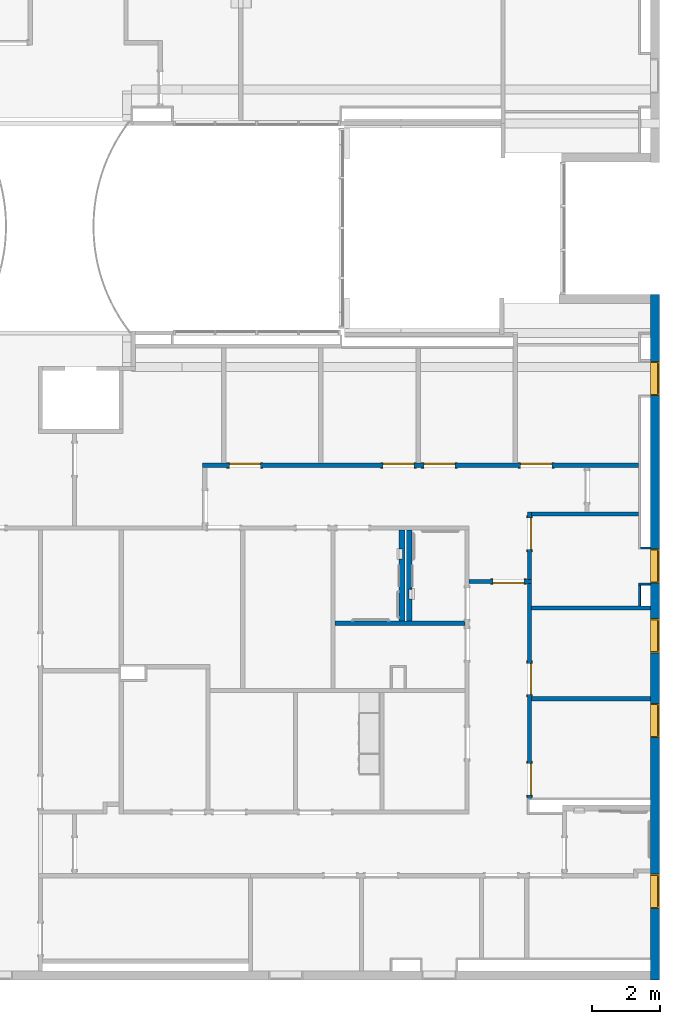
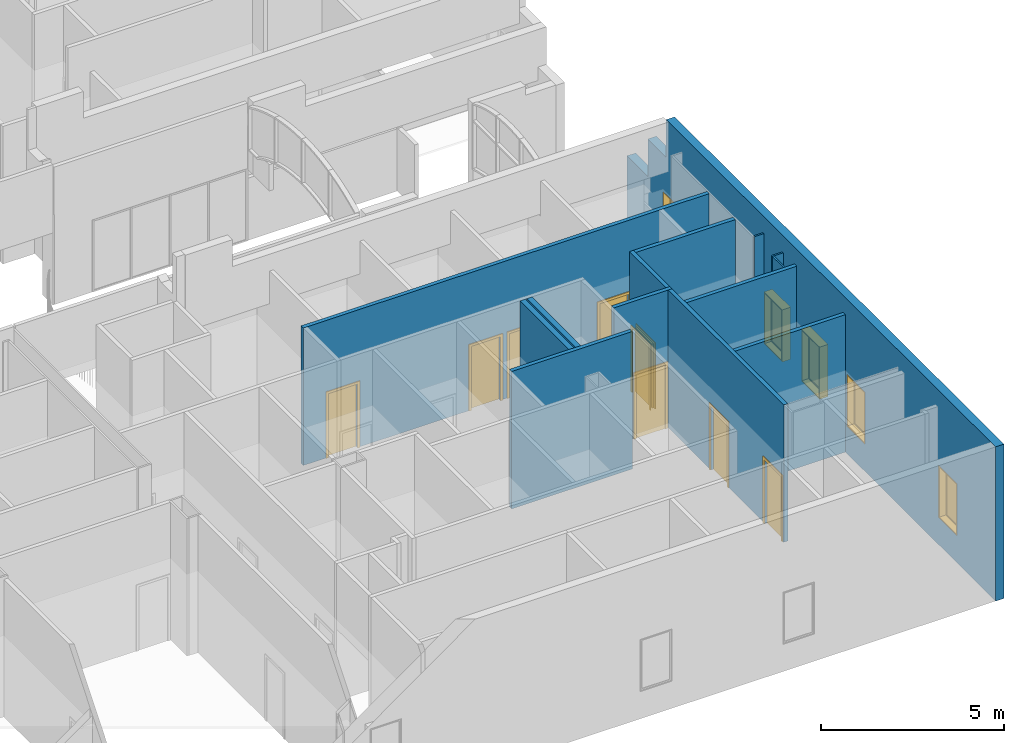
# One storey, part 16 of 45: 14 walls, 8 doors, 5 windows, 16 openings.
"""IFC2X3 building model written with IfcOpenShell, lengths in metres."""

from ifc_helpers import new_model, entity, si_unit, converted_unit, frame, frame_2d, origin, origin_2d_with_axis, place, context, project, spatial, polyline, rectangle, outline, extrude, clip, halfspace, source, transform, mapped, material, layer, layer_set, layer_usage, type_object, type_shapes, element, fill, save


model = new_model("IFC2X3")

# Units and contexts
model_context = context("Model", 3, precision=1e-09, world=origin())
plan_context = context("Plan", 3, precision=1e-09, world=origin())
ifc_project = project(units=[si_unit("LENGTHUNIT", "METRE"), si_unit("AREAUNIT", "SQUARE_METRE"), si_unit("VOLUMEUNIT", "CUBIC_METRE"), converted_unit("PLANEANGLEUNIT", "DEGREE", entity("IfcRatioMeasure", 0.01745329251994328), si_unit("PLANEANGLEUNIT", "RADIAN"), dimensions=[0, 0, 0, 0, 0, 0, 0]), si_unit("TIMEUNIT", "SECOND")], contexts=[model_context, plan_context])

# Site, building, storey
site_placement = place(None, origin())
site = spatial("IfcSite", under=ifc_project, at=site_placement, Name="Default", CompositionType="ELEMENT")
building_placement = place(site_placement, origin())
building = spatial("IfcBuilding", under=site, at=building_placement, CompositionType="ELEMENT")
storey_placement = place(building_placement, frame((0.0, 0.0, 4.570000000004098)))
storey = spatial("IfcBuildingStorey", under=building, at=storey_placement, Name="Second Floor", CompositionType="ELEMENT", Elevation=4.570000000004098)

# Wall, openings, windows
ifc_material_1 = material(Name="Insulation - Insulated Panel")
ifc_layer_1 = layer(ifc_material_1, 0.042)
ifc_material_2 = material(Name="Metal - Firring")
ifc_layer_2 = layer(ifc_material_2, 0.038)
ifc_material_3 = material(Name="Wood - Sheathing - plywood")
ifc_layer_3 = layer(ifc_material_3, 0.019)
ifc_material_4 = material(Name="Metal - Stud Layer")
ifc_layer_4 = layer(ifc_material_4, 0.152)
ifc_material_5 = material(Name="Plasterboard")
ifc_layer_5 = layer(ifc_material_5, 0.016)
ifc_layer_set_1 = layer_set([ifc_layer_1, ifc_layer_2, ifc_layer_3, ifc_layer_4, ifc_layer_5], Name="Basic Wall:Exterior - Insul Panel on Mtl. Stud")
ifc_layer_usage_1 = layer_usage(ifc_layer_set_1, "AXIS2", "NEGATIVE", 0.1335)
wall_1_placement = place(storey_placement, frame((0.246499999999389, 29.75999999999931, 0.0), z_axis=(0.0, 0.0, 1.0), x_axis=(0.0, -1.0, 0.0)))
wall_1 = element("IfcWallStandardCase", 1, at=wall_1_placement, inside=storey, material=ifc_layer_usage_1, Name="Basic Wall:Exterior - Insul Panel on Mtl. Stud", ObjectType="Basic Wall:Exterior - Insul Panel on Mtl. Stud", context=model_context, shape_type="Clipping", body=[
    clip(extrude(rectangle(XDim=20.10000000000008, YDim=0.267, at=frame_2d((10.05000000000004, 0.0), x_axis=(-1.0, 0.0))), origin(), (0.0, 0.0, 1.0), 5.136999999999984), halfspace(frame((2.133403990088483, 0.0, 5.136999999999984), z_axis=(-0.7602909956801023, 0.0, 0.6495826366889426), x_axis=(0.0, 1.0, 0.0)), False)),
])
opening_1_placement = place(wall_1_placement, frame((1.306761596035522, 0.1335, 3.638799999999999)))
element("IfcOpeningElement", 2, at=opening_1_placement, cuts=wall_1, Name="Basic Wall:Exterior - Insul Panel on Mtl. Stud:2", ObjectType="Opening", context=model_context, shape_type="SweptSolid", body=[
    extrude(outline(polyline([(-1.676040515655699, -0.3447159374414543), (1.608228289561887, -0.3447159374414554), (0.8719263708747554, 0.5170739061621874), (-0.07729693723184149, -0.2939300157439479), (-0.7268172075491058, 0.4662879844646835), (-1.676040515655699, -0.3447159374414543)])), frame((0.0, 0.0, 0.0), z_axis=(0.0, -1.0, 0.0), x_axis=(-0.6495826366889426, 0.0, -0.7602909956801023)), (0.0, 0.0, 1.0), 0.267),
])
opening_2_placement = place(wall_1_placement, frame((1.965561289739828, -0.1335000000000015, 0.905)))
opening_2 = element("IfcOpeningElement", 3, at=opening_2_placement, cuts=wall_1, Name="M_Fixed:1735 x 1000mm:1735 x 1000mm:1", ObjectType="Opening", context=model_context, shape_type="SweptSolid", body=[
    extrude(rectangle(XDim=1.734999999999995, YDim=0.9999999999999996, at=frame_2d((0.8674999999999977, 0.4999999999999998), x_axis=(1.0, 0.0))), frame((0.0, 0.0, 0.0), z_axis=(0.0, 1.0, 0.0), x_axis=(0.0, 0.0, 1.0)), (0.0, 0.0, 1.0), 0.267),
])
opening_3_placement = place(wall_1_placement, frame((7.465561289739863, -0.1335000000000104, 0.905)))
opening_3 = element("IfcOpeningElement", 4, at=opening_3_placement, cuts=wall_1, Name="M_Fixed:1735 x 1000mm:1735 x 1000mm:1", ObjectType="Opening", context=model_context, shape_type="SweptSolid", body=[
    extrude(rectangle(XDim=1.734999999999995, YDim=0.9999999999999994, at=frame_2d((0.8674999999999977, 0.5000000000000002), x_axis=(1.0, 0.0))), frame((0.0, 0.0, 0.0), z_axis=(0.0, 1.0, 0.0), x_axis=(0.0, 0.0, 1.0)), (0.0, 0.0, 1.0), 0.267),
])
opening_4_placement = place(wall_1_placement, frame((9.509999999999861, -0.1335000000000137, 0.905)))
opening_4 = element("IfcOpeningElement", 5, at=opening_4_placement, cuts=wall_1, Name="M_Fixed:1735 x 1000mm:1735 x 1000mm:1", ObjectType="Opening", context=model_context, shape_type="SweptSolid", body=[
    extrude(rectangle(XDim=1.734999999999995, YDim=0.9999999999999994, at=frame_2d((0.8674999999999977, 0.5000000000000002), x_axis=(1.0, 0.0))), frame((0.0, 0.0, 0.0), z_axis=(0.0, 1.0, 0.0), x_axis=(0.0, 0.0, 1.0)), (0.0, 0.0, 1.0), 0.267),
])
opening_5_placement = place(wall_1_placement, frame((11.99049999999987, -0.1335000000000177, 0.905)))
opening_5 = element("IfcOpeningElement", 6, at=opening_5_placement, cuts=wall_1, Name="M_Fixed:1735 x 1000mm:1735 x 1000mm:1", ObjectType="Opening", context=model_context, shape_type="SweptSolid", body=[
    extrude(rectangle(XDim=1.734999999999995, YDim=0.9999999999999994, at=frame_2d((0.8674999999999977, 0.5000000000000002), x_axis=(1.0, 0.0))), frame((0.0, 0.0, 0.0), z_axis=(0.0, 1.0, 0.0), x_axis=(0.0, 0.0, 1.0)), (0.0, 0.0, 1.0), 0.267),
])
opening_6_placement = place(wall_1_placement, frame((17.0, -0.1335000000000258, 0.905)))
opening_6 = element("IfcOpeningElement", 7, at=opening_6_placement, cuts=wall_1, Name="M_Fixed:1735 x 1000mm:1735 x 1000mm:1", ObjectType="Opening", context=model_context, shape_type="SweptSolid", body=[
    extrude(rectangle(XDim=1.734999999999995, YDim=0.9999999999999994, at=frame_2d((0.8674999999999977, 0.5000000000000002), x_axis=(1.0, 0.0))), frame((0.0, 0.0, 0.0), z_axis=(0.0, 1.0, 0.0), x_axis=(0.0, 0.0, 1.0)), (0.0, 0.0, 1.0), 0.267),
])
window_style = type_object("IfcWindowStyle", Name="1735 x 1000mm", ConstructionType="NOTDEFINED", OperationType="NOTDEFINED", ParameterTakesPrecedence=False, Sizeable=False)
shared_shape_1 = source(origin(), model_context, "Body", "SweptSolid", [
    extrude(rectangle(XDim=0.012, YDim=0.873999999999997, at=origin_2d_with_axis()), frame((0.5000000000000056, 0.2259999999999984, 0.06299999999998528), z_axis=(0.0, 0.0, 1.0), x_axis=(0.0, -1.0, 0.0)), (0.0, 0.0, 1.0), 1.609000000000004),
    extrude(outline(polyline([(-0.4809999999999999, -0.8485000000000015), (0.4809999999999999, -0.8485000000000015), (0.4809999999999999, 0.8485000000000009), (-0.4809999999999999, 0.8485000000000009), (-0.4809999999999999, -0.8485000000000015)]), holes=[polyline([(-0.4369999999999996, -0.8045000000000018), (-0.4369999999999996, 0.8045000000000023), (0.4369999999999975, 0.8045000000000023), (0.4369999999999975, -0.8045000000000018), (-0.4369999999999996, -0.8045000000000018)])]), frame((0.5000000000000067, 0.203999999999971, 0.8674999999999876), z_axis=(0.0, 1.0, 0.0), x_axis=(1.0, 0.0, 0.0)), (0.0, 0.0, 1.0), 0.04400000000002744),
    extrude(outline(polyline([(-0.4999999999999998, -0.8674999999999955), (0.4999999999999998, -0.8674999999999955), (0.4999999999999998, 0.8674999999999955), (-0.4999999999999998, 0.8674999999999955), (-0.4999999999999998, -0.8674999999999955)]), holes=[polyline([(-0.4810000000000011, -0.8484999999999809), (-0.4810000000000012, 0.8485000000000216), (0.4809999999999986, 0.8485000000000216), (0.4809999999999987, -0.8484999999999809), (-0.4810000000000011, -0.8484999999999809)])]), frame((0.500000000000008, 0.203999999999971, 0.8675000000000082), z_axis=(0.0, 1.0, 0.0), x_axis=(1.0, 0.0, 0.0)), (0.0, 0.0, 1.0), 0.06300000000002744),
    extrude(outline(polyline([(-0.5000000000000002, -0.867499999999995), (0.5000000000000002, -0.867499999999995), (0.5000000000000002, 0.867499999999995), (-0.5000000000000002, 0.867499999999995), (-0.5000000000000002, -0.867499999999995)]), holes=[polyline([(-0.4679999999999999, -0.8354999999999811), (-0.4679999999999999, 0.8355000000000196), (0.4680000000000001, 0.8355000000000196), (0.4680000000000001, -0.8354999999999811), (-0.4679999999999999, -0.8354999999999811)])]), frame((0.5000000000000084, 0.0, 0.8675000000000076), z_axis=(0.0, 1.0, 0.0), x_axis=(1.0, 0.0, 0.0)), (0.0, 0.0, 1.0), 0.2039999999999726),
])
type_shapes(window_style, [shared_shape_1])
window_1_placement = place(opening_3_placement, origin())
window_1 = element("IfcWindow", 8, at=window_1_placement, inside=storey, type_object=window_style, Name="M_Fixed:1735 x 1000mm:1735 x 1000mm", ObjectType="1735 x 1000mm", OverallHeight=1.734999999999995, OverallWidth=0.9999999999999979, context=model_context, shape_type="MappedRepresentation", body=[
    mapped(shared_shape_1, transform((0.0, 0.0, 0.0), scale=1.0)),
])
fill(opening_3, window_1)
window_2_placement = place(opening_2_placement, origin())
window_2 = element("IfcWindow", 9, at=window_2_placement, inside=storey, type_object=window_style, Name="M_Fixed:1735 x 1000mm:1735 x 1000mm", ObjectType="1735 x 1000mm", OverallHeight=1.734999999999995, OverallWidth=0.9999999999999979, context=model_context, shape_type="MappedRepresentation", body=[
    mapped(shared_shape_1, transform((0.0, 0.0, 0.0), scale=1.0)),
])
fill(opening_2, window_2)
window_3_placement = place(opening_4_placement, origin())
window_3 = element("IfcWindow", 10, at=window_3_placement, inside=storey, type_object=window_style, Name="M_Fixed:1735 x 1000mm:1735 x 1000mm", ObjectType="1735 x 1000mm", OverallHeight=1.734999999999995, OverallWidth=1.0, context=model_context, shape_type="MappedRepresentation", body=[
    mapped(shared_shape_1, transform((0.0, 0.0, 0.0), scale=1.0)),
])
fill(opening_4, window_3)
window_4_placement = place(opening_6_placement, origin())
window_4 = element("IfcWindow", 11, at=window_4_placement, inside=storey, type_object=window_style, Name="M_Fixed:1735 x 1000mm:1735 x 1000mm", ObjectType="1735 x 1000mm", OverallHeight=1.734999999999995, OverallWidth=1.0, context=model_context, shape_type="MappedRepresentation", body=[
    mapped(shared_shape_1, transform((0.0, 0.0, 0.0), scale=1.0)),
])
fill(opening_6, window_4)
window_5_placement = place(opening_5_placement, origin())
window_5 = element("IfcWindow", 12, at=window_5_placement, inside=storey, type_object=window_style, Name="M_Fixed:1735 x 1000mm:1735 x 1000mm", ObjectType="1735 x 1000mm", OverallHeight=1.734999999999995, OverallWidth=1.0, context=model_context, shape_type="MappedRepresentation", body=[
    mapped(shared_shape_1, transform((0.0, 0.0, 0.0), scale=1.0)),
])
fill(opening_5, window_5)

# Wall, openings, doors
ifc_layer_6 = layer(ifc_material_5, 0.016)
ifc_layer_7 = layer(ifc_material_4, 0.092)
ifc_layer_8 = layer(ifc_material_5, 0.016)
ifc_layer_set_2 = layer_set([ifc_layer_6, ifc_layer_7, ifc_layer_8], Name="Basic Wall:Interior - Partition (92mm Stud)")
ifc_layer_usage_2 = layer_usage(ifc_layer_set_2, "AXIS2", "NEGATIVE", 0.062)
wall_2_placement = place(storey_placement, frame((-0.2300000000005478, 24.74643871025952, 0.0), z_axis=(0.0, 0.0, 1.0), x_axis=(-1.0, 0.0, 0.0)))
wall_2 = element("IfcWallStandardCase", 13, at=wall_2_placement, inside=storey, material=ifc_layer_usage_2, Name="Basic Wall:Interior - Partition (92mm Stud)", ObjectType="Basic Wall:Interior - Partition (92mm Stud)", context=model_context, shape_type="SweptSolid", body=[
    extrude(rectangle(XDim=12.78000000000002, YDim=0.1239999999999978, at=frame_2d((6.39000000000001, 0.0), x_axis=(-1.0, 0.0))), origin(), (0.0, 0.0, 1.0), 4.577999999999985),
])
opening_7_placement = place(wall_2_placement, frame((3.459975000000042, 0.06199999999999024, 0.0)))
opening_7 = element("IfcOpeningElement", 14, at=opening_7_placement, cuts=wall_2, Name="M_Single-Flush:0915 x 2134mm:0915 x 2134mm:1", ObjectType="Opening", context=model_context, shape_type="SweptSolid", body=[
    extrude(rectangle(XDim=0.9149999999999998, YDim=2.134, at=frame_2d((1.067, 0.4575000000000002), x_axis=(0.0, -1.0))), frame((0.0, 0.0, 0.0), z_axis=(0.0, -1.0, 0.0), x_axis=(0.0, 0.0, 1.0)), (0.0, 0.0, 1.0), 0.124),
])
opening_8_placement = place(wall_2_placement, frame((7.498975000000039, 0.06199999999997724, 0.0)))
opening_8 = element("IfcOpeningElement", 15, at=opening_8_placement, cuts=wall_2, Name="M_Single-Flush:0915 x 2134mm:0915 x 2134mm:1", ObjectType="Opening", context=model_context, shape_type="SweptSolid", body=[
    extrude(rectangle(XDim=0.9149999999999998, YDim=2.134, at=frame_2d((1.067, 0.4575), x_axis=(0.0, 1.0))), frame((0.0, 0.0, 0.0), z_axis=(0.0, -1.0, 0.0), x_axis=(0.0, 0.0, 1.0)), (0.0, 0.0, 1.0), 0.124),
])
opening_9_placement = place(wall_2_placement, frame((6.29997500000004, 0.06199999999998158, 0.0)))
opening_9 = element("IfcOpeningElement", 16, at=opening_9_placement, cuts=wall_2, Name="M_Single-Flush:0915 x 2134mm:0915 x 2134mm:1", ObjectType="Opening", context=model_context, shape_type="SweptSolid", body=[
    extrude(rectangle(XDim=0.9150000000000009, YDim=2.134, at=frame_2d((1.067, 0.4574999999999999), x_axis=(0.0, -1.0))), frame((0.0, 0.0, 0.0), z_axis=(0.0, -1.0, 0.0), x_axis=(0.0, 0.0, 1.0)), (0.0, 0.0, 1.0), 0.124),
])
opening_10_placement = place(wall_2_placement, frame((11.99997500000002, 0.06199999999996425, 0.0)))
opening_10 = element("IfcOpeningElement", 17, at=opening_10_placement, cuts=wall_2, Name="M_Single-Flush:0915 x 2134mm:0915 x 2134mm:1", ObjectType="Opening", context=model_context, shape_type="SweptSolid", body=[
    extrude(rectangle(XDim=0.9149999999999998, YDim=2.134, at=frame_2d((1.067, 0.4574999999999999), x_axis=(0.0, -1.0))), frame((0.0, 0.0, 0.0), z_axis=(0.0, -1.0, 0.0), x_axis=(0.0, 0.0, 1.0)), (0.0, 0.0, 1.0), 0.124),
])
door_style_1 = type_object("IfcDoorStyle", Name="0915 x 2134mm", ConstructionType="NOTDEFINED", OperationType="SINGLE_SWING_RIGHT", ParameterTakesPrecedence=False, Sizeable=False)
shared_shape_2 = source(origin(), model_context, "Body", "SweptSolid", [
    extrude(outline(polyline([(-0.5335, -1.123999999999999), (0.5334999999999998, -1.123999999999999), (0.5334999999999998, 1.086), (0.4574999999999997, 1.086), (0.4574999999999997, -1.048000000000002), (-0.4574999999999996, -1.048000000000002), (-0.4574999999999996, 1.086), (-0.5335, 1.086), (-0.5335, -1.123999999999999)])), frame((0.4575000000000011, 0.1239999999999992, 1.086), z_axis=(0.0, 1.0, 0.0), x_axis=(1.0, 0.0, 0.0)), (0.0, 0.0, 1.0), 0.02499999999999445),
    extrude(outline(polyline([(-1.123999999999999, -0.5334999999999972), (1.085999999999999, -0.5334999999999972), (1.085999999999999, -0.4575000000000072), (-1.048, -0.4575000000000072), (-1.048, 0.4575000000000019), (1.085999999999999, 0.4575000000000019), (1.085999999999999, 0.5335000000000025), (-1.123999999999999, 0.5335000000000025), (-1.123999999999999, -0.5334999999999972)])), frame((0.4575000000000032, -0.02500000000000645, 1.085999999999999), z_axis=(0.0, 1.0, 0.0), x_axis=(0.0, 0.0, -1.0)), (0.0, 0.0, 1.0), 0.02500000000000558),
    extrude(rectangle(XDim=0.051, YDim=0.9149999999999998, at=origin_2d_with_axis()), frame((0.4575000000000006, 0.09849999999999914, 0.0), z_axis=(0.0, 0.0, 1.0), x_axis=(0.0, 1.0, 0.0)), (0.0, 0.0, 1.0), 2.133999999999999),
])
type_shapes(door_style_1, [shared_shape_2])
door_1_placement = place(opening_8_placement, frame((0.0, 0.0, 0.0), z_axis=(0.0, 0.0, 1.0), x_axis=(-1.0, 0.0, 0.0)))
door_1 = element("IfcDoor", 18, at=door_1_placement, inside=storey, type_object=door_style_1, Name="M_Single-Flush:0915 x 2134mm:0915 x 2134mm", ObjectType="0915 x 2134mm", OverallHeight=2.134, OverallWidth=0.9149999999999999, context=model_context, shape_type="MappedRepresentation", body=[
    mapped(shared_shape_2, transform((0.0, 0.0, 0.0), scale=1.0)),
])
fill(opening_8, door_1)
door_style_2 = type_object("IfcDoorStyle", Name="0915 x 2134mm", ConstructionType="NOTDEFINED", OperationType="SINGLE_SWING_LEFT", ParameterTakesPrecedence=False, Sizeable=False)
shared_shape_3 = source(origin(), model_context, "Body", "SweptSolid", [
    extrude(outline(polyline([(-0.5335, -1.123999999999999), (0.5334999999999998, -1.123999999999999), (0.5334999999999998, 1.086), (0.4574999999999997, 1.086), (0.4574999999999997, -1.048000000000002), (-0.4574999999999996, -1.048000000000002), (-0.4574999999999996, 1.086), (-0.5335, 1.086), (-0.5335, -1.123999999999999)])), frame((0.4575000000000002, 0.1489999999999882, 1.086), z_axis=(0.0, -1.0, 0.0), x_axis=(-1.0, 0.0, 0.0)), (0.0, 0.0, 1.0), 0.02499999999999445),
    extrude(outline(polyline([(-1.123999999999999, -0.5334999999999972), (1.085999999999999, -0.5334999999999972), (1.085999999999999, -0.4575000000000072), (-1.048, -0.4575000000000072), (-1.048, 0.4575000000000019), (1.085999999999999, 0.4575000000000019), (1.085999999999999, 0.5335000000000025), (-1.123999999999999, 0.5335000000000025), (-1.123999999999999, -0.5334999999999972)])), frame((0.4574999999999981, 0.0, 1.085999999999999), z_axis=(0.0, -1.0, 0.0), x_axis=(0.0, 0.0, -1.0)), (0.0, 0.0, 1.0), 0.02500000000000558),
    extrude(rectangle(XDim=0.9149999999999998, YDim=0.051, at=origin_2d_with_axis()), frame((0.4575000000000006, 0.09849999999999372, 0.0)), (0.0, 0.0, 1.0), 2.133999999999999),
])
type_shapes(door_style_2, [shared_shape_3])
door_2_placement = place(opening_7_placement, frame((0.0, 0.0, 0.0), z_axis=(0.0, 0.0, 1.0), x_axis=(-1.0, 0.0, 0.0)))
door_2 = element("IfcDoor", 19, at=door_2_placement, inside=storey, type_object=door_style_2, Name="M_Single-Flush:0915 x 2134mm:0915 x 2134mm", ObjectType="0915 x 2134mm", OverallHeight=2.134, OverallWidth=0.9149999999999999, context=model_context, shape_type="MappedRepresentation", body=[
    mapped(shared_shape_3, transform((0.0, 0.0, 0.0), scale=1.0)),
])
fill(opening_7, door_2)
door_3_placement = place(opening_10_placement, frame((0.0, 0.0, 0.0), z_axis=(0.0, 0.0, 1.0), x_axis=(-1.0, 0.0, 0.0)))
door_3 = element("IfcDoor", 20, at=door_3_placement, inside=storey, type_object=door_style_2, Name="M_Single-Flush:0915 x 2134mm:0915 x 2134mm", ObjectType="0915 x 2134mm", OverallHeight=2.134, OverallWidth=0.9149999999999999, context=model_context, shape_type="MappedRepresentation", body=[
    mapped(shared_shape_3, transform((0.0, 0.0, 0.0), scale=1.0)),
])
fill(opening_10, door_3)
door_4_placement = place(opening_9_placement, frame((0.0, 0.0, 0.0), z_axis=(0.0, 0.0, 1.0), x_axis=(-1.0, 0.0, 0.0)))
door_4 = element("IfcDoor", 21, at=door_4_placement, inside=storey, type_object=door_style_2, Name="M_Single-Flush:0915 x 2134mm:0915 x 2134mm", ObjectType="0915 x 2134mm", OverallHeight=2.134, OverallWidth=0.9149999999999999, context=model_context, shape_type="MappedRepresentation", body=[
    mapped(shared_shape_3, transform((0.0, 0.0, 0.0), scale=1.0)),
])
fill(opening_9, door_4)

wall_3_placement = place(storey_placement, frame((-3.428000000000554, 21.27703871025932, 0.0), z_axis=(0.0, 0.0, 1.0), x_axis=(0.0, -1.0, 0.0)))
wall_3 = element("IfcWallStandardCase", 22, at=wall_3_placement, inside=storey, material=ifc_layer_usage_2, Name="Basic Wall:Interior - Partition (92mm Stud)", ObjectType="Basic Wall:Interior - Partition (92mm Stud)", context=model_context, shape_type="SweptSolid", body=[
    extrude(rectangle(XDim=6.309599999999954, YDim=0.124, at=frame_2d((3.154799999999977, 0.0), x_axis=(-1.0, 0.0))), origin(), (0.0, 0.0, 1.0), 4.577999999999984),
])
opening_11_placement = place(wall_3_placement, frame((2.334099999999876, -0.06200000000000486, 0.0)))
opening_11 = element("IfcOpeningElement", 23, at=opening_11_placement, cuts=wall_3, Name="M_Single-Flush:0915 x 2134mm:0915 x 2134mm:1", ObjectType="Opening", context=model_context, shape_type="SweptSolid", body=[
    extrude(rectangle(XDim=0.9149999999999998, YDim=2.134, at=frame_2d((1.067, 0.4575), x_axis=(0.0, 1.0))), frame((0.0, 0.0, 0.0), z_axis=(0.0, 1.0, 0.0), x_axis=(0.0, 0.0, 1.0)), (0.0, 0.0, 1.0), 0.124),
])
opening_12_placement = place(wall_3_placement, frame((5.273599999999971, -0.06200000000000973, 0.0)))
opening_12 = element("IfcOpeningElement", 24, at=opening_12_placement, cuts=wall_3, Name="M_Single-Flush:0915 x 2134mm:0915 x 2134mm:1", ObjectType="Opening", context=model_context, shape_type="SweptSolid", body=[
    extrude(rectangle(XDim=0.9149999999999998, YDim=2.134, at=frame_2d((1.067, 0.4575), x_axis=(0.0, 1.0))), frame((0.0, 0.0, 0.0), z_axis=(0.0, 1.0, 0.0), x_axis=(0.0, 0.0, 1.0)), (0.0, 0.0, 1.0), 0.124),
])
door_5_placement = place(opening_12_placement, origin())
door_5 = element("IfcDoor", 25, at=door_5_placement, inside=storey, type_object=door_style_1, Name="M_Single-Flush:0915 x 2134mm:0915 x 2134mm", ObjectType="0915 x 2134mm", OverallHeight=2.134, OverallWidth=0.9149999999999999, context=model_context, shape_type="MappedRepresentation", body=[
    mapped(shared_shape_2, transform((0.0, 0.0, 0.0), scale=1.0)),
])
fill(opening_12, door_5)
door_6_placement = place(opening_11_placement, origin())
door_6 = element("IfcDoor", 26, at=door_6_placement, inside=storey, type_object=door_style_1, Name="M_Single-Flush:0915 x 2134mm:0915 x 2134mm", ObjectType="0915 x 2134mm", OverallHeight=2.134, OverallWidth=0.9149999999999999, context=model_context, shape_type="MappedRepresentation", body=[
    mapped(shared_shape_2, transform((0.0, 0.0, 0.0), scale=1.0)),
])
fill(opening_11, door_6)

# Walls
wall_4_placement = place(storey_placement, frame((-5.324000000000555, 20.11643871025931, 0.0), z_axis=(0.0, 0.0, 1.0), x_axis=(-1.0, 0.0, 0.0)))
element("IfcWallStandardCase", 27, at=wall_4_placement, inside=storey, material=ifc_layer_usage_2, Name="Basic Wall:Interior - Partition (92mm Stud)", ObjectType="Basic Wall:Interior - Partition (92mm Stud)", context=model_context, shape_type="SweptSolid", body=[
    extrude(rectangle(XDim=3.801999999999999, YDim=0.1239999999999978, at=frame_2d((1.900999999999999, 0.0), x_axis=(-1.0, 0.0))), origin(), (0.0, 0.0, 1.0), 4.577999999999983),
])
wall_5_placement = place(storey_placement, frame((-3.36600000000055, 23.32243871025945, 0.0)))
element("IfcWallStandardCase", 28, at=wall_5_placement, inside=storey, material=ifc_layer_usage_2, Name="Basic Wall:Interior - Partition (92mm Stud)", ObjectType="Basic Wall:Interior - Partition (92mm Stud)", context=model_context, shape_type="SweptSolid", body=[
    extrude(rectangle(XDim=3.136, YDim=0.1239999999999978, at=frame_2d((1.568, 0.0), x_axis=(-1.0, 0.0))), origin(), (0.0, 0.0, 1.0), 4.577999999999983),
])

# Wall, opening, door
wall_6_placement = place(storey_placement, frame((-5.200000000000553, 21.33903871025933, 0.0)))
wall_6 = element("IfcWallStandardCase", 29, at=wall_6_placement, inside=storey, material=ifc_layer_usage_2, Name="Basic Wall:Interior - Partition (92mm Stud)", ObjectType="Basic Wall:Interior - Partition (92mm Stud)", context=model_context, shape_type="SweptSolid", body=[
    extrude(rectangle(XDim=1.833999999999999, YDim=0.1239999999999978, at=frame_2d((0.9169999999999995, 0.0), x_axis=(-1.0, 0.0))), origin(), (0.0, 0.0, 1.0), 4.577999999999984),
])
opening_13_placement = place(wall_6_placement, frame((1.609999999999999, 0.06199999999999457, 0.0)))
opening_13 = element("IfcOpeningElement", 30, at=opening_13_placement, cuts=wall_6, Name="M_Single-Flush:0915 x 2134mm:0915 x 2134mm:1", ObjectType="Opening", context=model_context, shape_type="SweptSolid", body=[
    extrude(rectangle(XDim=0.9149999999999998, YDim=2.134, at=frame_2d((1.067, 0.4575000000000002), x_axis=(0.0, -1.0))), frame((0.0, 0.0, 0.0), z_axis=(0.0, -1.0, 0.0), x_axis=(0.0, 0.0, 1.0)), (0.0, 0.0, 1.0), 0.124),
])
door_7_placement = place(opening_13_placement, frame((0.0, 0.0, 0.0), z_axis=(0.0, 0.0, 1.0), x_axis=(-1.0, 0.0, 0.0)))
door_7 = element("IfcDoor", 31, at=door_7_placement, inside=storey, type_object=door_style_2, Name="M_Single-Flush:0915 x 2134mm:0915 x 2134mm", ObjectType="0915 x 2134mm", OverallHeight=2.134, OverallWidth=0.9149999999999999, context=model_context, shape_type="MappedRepresentation", body=[
    mapped(shared_shape_3, transform((0.0, 0.0, 0.0), scale=1.0)),
])
fill(opening_13, door_7)

wall_7_placement = place(storey_placement, frame((-3.428000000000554, 21.40103871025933, 0.0), z_axis=(0.0, 0.0, 1.0), x_axis=(0.0, 1.0, 0.0)))
wall_7 = element("IfcWallStandardCase", 32, at=wall_7_placement, inside=storey, material=ifc_layer_usage_2, Name="Basic Wall:Interior - Partition (92mm Stud)", ObjectType="Basic Wall:Interior - Partition (92mm Stud)", context=model_context, shape_type="SweptSolid", body=[
    extrude(rectangle(XDim=1.983400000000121, YDim=0.124, at=frame_2d((0.9917000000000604, 0.0), x_axis=(-1.0, 0.0))), origin(), (0.0, 0.0, 1.0), 4.577999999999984),
])
opening_14_placement = place(wall_7_placement, frame((1.799400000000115, 0.06199999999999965, 0.0)))
opening_14 = element("IfcOpeningElement", 33, at=opening_14_placement, cuts=wall_7, Name="M_Single-Flush:0915 x 2134mm:0915 x 2134mm:1", ObjectType="Opening", context=model_context, shape_type="SweptSolid", body=[
    extrude(rectangle(XDim=0.9149999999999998, YDim=2.134, at=frame_2d((1.067, 0.4575000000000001), x_axis=(0.0, -1.0))), frame((0.0, 0.0, 0.0), z_axis=(0.0, -1.0, 0.0), x_axis=(0.0, 0.0, 1.0)), (0.0, 0.0, 1.0), 0.124),
])
door_8_placement = place(opening_14_placement, frame((0.0, 0.0, 0.0), z_axis=(0.0, 0.0, 1.0), x_axis=(-1.0, 0.0, 0.0)))
door_8 = element("IfcDoor", 34, at=door_8_placement, inside=storey, type_object=door_style_2, Name="M_Single-Flush:0915 x 2134mm:0915 x 2134mm", ObjectType="0915 x 2134mm", OverallHeight=2.134, OverallWidth=0.9149999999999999, context=model_context, shape_type="MappedRepresentation", body=[
    mapped(shared_shape_3, transform((0.0, 0.0, 0.0), scale=1.0)),
])
fill(opening_14, door_8)

# Wall
wall_8_placement = place(storey_placement, frame((0.1129999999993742, 20.56643871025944, 0.0), z_axis=(0.0, 0.0, 1.0), x_axis=(-1.0, 0.0, 0.0)))
element("IfcWallStandardCase", 35, at=wall_8_placement, inside=storey, material=ifc_layer_usage_2, Name="Basic Wall:Interior - Partition (92mm Stud)", ObjectType="Basic Wall:Interior - Partition (92mm Stud)", context=model_context, shape_type="SweptSolid", body=[
    extrude(rectangle(XDim=3.478999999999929, YDim=0.1239999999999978, at=frame_2d((1.739499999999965, 0.0), x_axis=(-1.0, 0.0))), origin(), (0.0, 0.0, 1.0), 4.577999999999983),
])

# Wall, opening
ifc_layer_9 = layer(ifc_material_4, 0.152)
ifc_layer_10 = layer(ifc_material_5, 0.016)
ifc_layer_set_3 = layer_set([ifc_layer_9, ifc_layer_10], Name="Basic Wall:Interior - Furring (152 mm Stud)")
ifc_layer_usage_3 = layer_usage(ifc_layer_set_3, "AXIS2", "POSITIVE", -0.08399999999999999)
wall_9_placement = place(storey_placement, frame((-6.954000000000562, 22.85043871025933, 0.0), z_axis=(0.0, 0.0, 1.0), x_axis=(0.0, -1.0, 0.0)))
wall_9 = element("IfcWallStandardCase", 36, at=wall_9_placement, inside=storey, material=ifc_layer_usage_3, Name="Basic Wall:Interior - Furring (152 mm Stud)", ObjectType="Basic Wall:Interior - Furring (152 mm Stud)", context=model_context, shape_type="SweptSolid", body=[
    extrude(rectangle(XDim=2.672000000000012, YDim=0.1680000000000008, at=frame_2d((1.336000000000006, 0.0), x_axis=(-1.0, 0.0))), origin(), (0.0, 0.0, 1.0), 4.577999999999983),
])
opening_15_placement = place(wall_9_placement, origin())
element("IfcOpeningElement", 37, at=opening_15_placement, cuts=wall_9, ObjectType="Opening", context=model_context, shape_type="SweptSolid", body=[
    extrude(rectangle(XDim=1.362075, YDim=0.2984500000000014, at=frame_2d((0.0, 0.0), x_axis=(0.0, 1.0))), frame((1.878499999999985, -0.004900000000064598, 1.041399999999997), z_axis=(0.0, 1.0, 0.0), x_axis=(1.0, 0.0, 0.0)), (0.0, 0.0, 1.0), 0.1524000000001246),
])

wall_10_placement = place(storey_placement, frame((-7.166000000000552, 20.17843871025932, 0.0), z_axis=(0.0, 0.0, 1.0), x_axis=(0.0, 1.0, 0.0)))
wall_10 = element("IfcWallStandardCase", 38, at=wall_10_placement, inside=storey, material=ifc_layer_usage_3, Name="Basic Wall:Interior - Furring (152 mm Stud)", ObjectType="Basic Wall:Interior - Furring (152 mm Stud)", context=model_context, shape_type="SweptSolid", body=[
    extrude(rectangle(XDim=2.672000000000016, YDim=0.1680000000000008, at=frame_2d((1.336000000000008, 0.0), x_axis=(-1.0, 0.0))), origin(), (0.0, 0.0, 1.0), 4.577999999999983),
])
opening_16_placement = place(wall_10_placement, origin())
element("IfcOpeningElement", 39, at=opening_16_placement, cuts=wall_10, ObjectType="Opening", context=model_context, shape_type="SweptSolid", body=[
    extrude(rectangle(XDim=1.362075, YDim=0.2984500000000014, at=frame_2d((0.0, 0.0), x_axis=(0.0, 1.0))), frame((1.967699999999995, -0.004900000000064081, 1.041399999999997), z_axis=(0.0, 1.0, 0.0), x_axis=(1.0, 0.0, 0.0)), (0.0, 0.0, 1.0), 0.1524000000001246),
])

# Walls
wall_11_placement = place(storey_placement, frame((0.1129999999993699, 17.90593871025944, 0.0), z_axis=(0.0, 0.0, 1.0), x_axis=(-1.0, 0.0, 0.0)))
element("IfcWallStandardCase", 40, at=wall_11_placement, inside=storey, material=ifc_layer_usage_2, Name="Basic Wall:Interior - Partition (92mm Stud)", ObjectType="Basic Wall:Interior - Partition (92mm Stud)", context=model_context, shape_type="SweptSolid", body=[
    extrude(rectangle(XDim=3.478999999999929, YDim=0.1240000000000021, at=frame_2d((1.739499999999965, 0.0), x_axis=(-1.0, 0.0))), origin(), (0.0, 0.0, 1.0), 4.577999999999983),
])
ifc_layer_11 = layer(ifc_material_4, 0.038)
ifc_layer_12 = layer(ifc_material_5, 0.016)
ifc_layer_set_4 = layer_set([ifc_layer_11, ifc_layer_12], Name="Basic Wall:Interior - Furring (38 mm Stud)")
ifc_layer_usage_4 = layer_usage(ifc_layer_set_4, "AXIS2", "NEGATIVE", 0.027)
wall_12_placement = place(storey_placement, frame((0.1129999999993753, 21.26499999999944, 0.0), z_axis=(0.0, 0.0, 1.0), x_axis=(-1.0, 0.0, 0.0)))
element("IfcWallStandardCase", 41, at=wall_12_placement, inside=storey, material=ifc_layer_usage_4, Name="Basic Wall:Interior - Furring (38 mm Stud)", ObjectType="Basic Wall:Interior - Furring (38 mm Stud)", context=model_context, shape_type="SweptSolid", body=[
    extrude(rectangle(XDim=0.3429999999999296, YDim=0.05399999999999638, at=frame_2d((0.1714999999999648, 0.0), x_axis=(-1.0, 0.0))), origin(), (0.0, 0.0, 1.0), 4.577999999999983),
])
wall_13_placement = place(storey_placement, frame((-0.1760000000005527, 22.32143871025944, 0.0)))
element("IfcWallStandardCase", 42, at=wall_13_placement, inside=storey, material=ifc_layer_usage_4, Name="Basic Wall:Interior - Furring (38 mm Stud)", ObjectType="Basic Wall:Interior - Furring (38 mm Stud)", context=model_context, shape_type="SweptSolid", body=[
    extrude(rectangle(XDim=0.2889999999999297, YDim=0.05399999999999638, at=frame_2d((0.1444999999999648, 0.0), x_axis=(-1.0, 0.0))), origin(), (0.0, 0.0, 1.0), 4.577999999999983),
])
wall_14_placement = place(storey_placement, frame((-0.2030000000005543, 21.23799999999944, 0.0), z_axis=(0.0, 0.0, 1.0), x_axis=(0.0, -1.0, 0.0)))
element("IfcWallStandardCase", 43, at=wall_14_placement, inside=storey, material=ifc_layer_usage_4, Name="Basic Wall:Interior - Furring (38 mm Stud)", ObjectType="Basic Wall:Interior - Furring (38 mm Stud)", context=model_context, shape_type="SweptSolid", body=[
    extrude(rectangle(XDim=0.6095612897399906, YDim=0.05400000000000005, at=frame_2d((0.3047806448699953, 0.0), x_axis=(-1.0, 0.0))), origin(), (0.0, 0.0, 1.0), 4.577999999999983),
])

save(model, "model.ifc")
